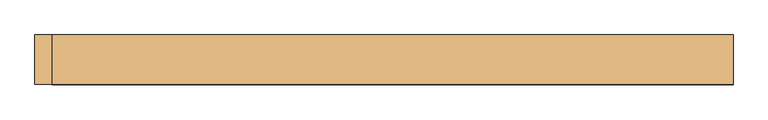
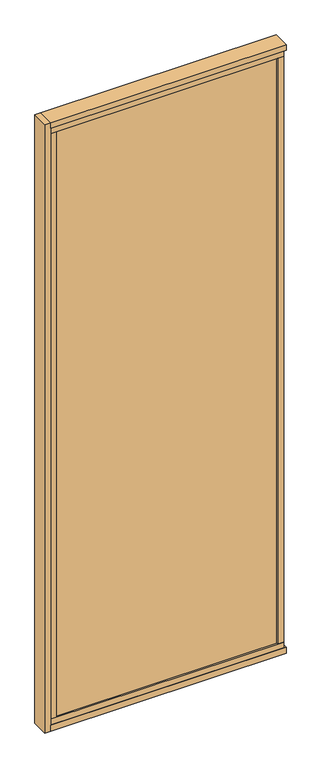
"""IFC4 building model written with IfcOpenShell, lengths in millimetres: door geometry, Mobiliário_Mobiliário de Escritório_Painel de Vidro Duplo com Persiana - AWT E AWL (Inicial e Final)_Marelli : AWT - Temperado."""

from ifc_helpers import new_model, si_unit, frame, origin, origin_with_axes, place, context, project, spatial, polyline, outline, extrude, source, transform, mapped, element, save


def door_6e14e871(model_context):
    return source(origin(), model_context, "Body", "SweptSolid", [
        extrude(outline(polyline([(600.0, 42.5), (600.0, -42.5), (-570.0, -42.5), (-570.0, 42.5), (600.0, 42.5)])), origin_with_axes(), (0.0, 0.0, 1.0), 30.0),
        extrude(outline(polyline([(590.0, 39.5), (590.0, -39.5), (-570.0, -39.5), (-570.0, 39.5), (590.0, 39.5)])), frame((0.0, 0.0, 30.0), z_axis=(0.0, 0.0, 1.0), x_axis=(1.0, 0.0, 0.0)), (0.0, 0.0, 1.0), 30.0),
        extrude(outline(polyline([(560.0, 13.6216022), (560.0, -11.3783978), (-540.0, -11.3783978), (-540.0, 13.6216022), (560.0, 13.6216022)])), frame((0.0, 0.0, 3107.0), z_axis=(0.0, 0.0, 1.0), x_axis=(1.0, 0.0, 0.0)), (0.0, 0.0, 1.0), 25.0),
        extrude(outline(polyline([(600.0, 42.5), (600.0, -42.5), (-570.0, -42.5), (-570.0, 42.5), (600.0, 42.5)])), frame((0.0, 0.0, 3170.0), z_axis=(0.0, 0.0, 1.0), x_axis=(1.0, 0.0, 0.0)), (0.0, 0.0, 1.0), 30.0),
        extrude(outline(polyline([(590.0, 39.5), (590.0, -39.5), (-570.0, -39.5), (-570.0, 39.5), (590.0, 39.5)])), frame((0.0, 0.0, 3140.0), z_axis=(0.0, 0.0, 1.0), x_axis=(1.0, 0.0, 0.0)), (0.0, 0.0, 1.0), 30.0),
        extrude(outline(polyline([(-600.0, -42.5), (-600.0, 42.5), (-570.0, 42.5), (-570.0, -42.5), (-600.0, -42.5)])), origin_with_axes(), (0.0, 0.0, 1.0), 3200.0),
        extrude(outline(polyline([(600.0, -21.5), (590.0, -21.5), (590.0, 21.5), (600.0, 21.5), (600.0, -21.5)])), frame((0.0, 0.0, 30.0), z_axis=(0.0, 0.0, 1.0), x_axis=(1.0, 0.0, 0.0)), (0.0, 0.0, 1.0), 3140.0),
        extrude(outline(polyline([(-540.0, 39.5), (-540.0, -39.5), (-570.0, -39.5), (-570.0, 39.5), (-540.0, 39.5)])), frame((0.0, 0.0, 60.0), z_axis=(0.0, 0.0, 1.0), x_axis=(1.0, 0.0, 0.0)), (0.0, 0.0, 1.0), 3080.0),
        extrude(outline(polyline([(560.0, 39.5), (590.0, 39.5), (590.0, -39.5), (560.0, -39.5), (560.0, 39.5)])), frame((0.0, 0.0, 60.0), z_axis=(0.0, 0.0, 1.0), x_axis=(1.0, 0.0, 0.0)), (0.0, 0.0, 1.0), 3080.0),
        extrude(outline(polyline([(560.0, -25.5), (560.0, -31.5), (-540.0, -31.5), (-540.0, -25.5), (560.0, -25.5)])), frame((0.0, 0.0, 60.0), z_axis=(0.0, 0.0, 1.0), x_axis=(1.0, 0.0, 0.0)), (0.0, 0.0, 1.0), 3080.0),
        extrude(outline(polyline([(560.0, 31.5), (560.0, 25.5), (-540.0, 25.5), (-540.0, 31.5), (560.0, 31.5)])), frame((0.0, 0.0, 60.0), z_axis=(0.0, 0.0, 1.0), x_axis=(1.0, 0.0, 0.0)), (0.0, 0.0, 1.0), 3080.0),
        extrude(outline(polyline([(560.0, 8.0), (560.0, -8.0), (-540.0, -8.0), (-540.0, 8.0), (560.0, 8.0)])), frame((0.0, 0.0, 1051.2), z_axis=(0.0, 0.0, 1.0), x_axis=(1.0, 0.0, 0.0)), (0.0, 0.0, 1.0), 0.8),
        extrude(outline(polyline([(560.0, 8.0), (560.0, -8.0), (-540.0, -8.0), (-540.0, 8.0), (560.0, 8.0)])), frame((0.0, 0.0, 1081.2), z_axis=(0.0, 0.0, 1.0), x_axis=(1.0, 0.0, 0.0)), (0.0, 0.0, 1.0), 0.8),
        extrude(outline(polyline([(560.0, 8.0), (560.0, -8.0), (-540.0, -8.0), (-540.0, 8.0), (560.0, 8.0)])), frame((0.0, 0.0, 1111.2), z_axis=(0.0, 0.0, 1.0), x_axis=(1.0, 0.0, 0.0)), (0.0, 0.0, 1.0), 0.8),
        extrude(outline(polyline([(560.0, 8.0), (560.0, -8.0), (-540.0, -8.0), (-540.0, 8.0), (560.0, 8.0)])), frame((0.0, 0.0, 1141.2), z_axis=(0.0, 0.0, 1.0), x_axis=(1.0, 0.0, 0.0)), (0.0, 0.0, 1.0), 0.8),
        extrude(outline(polyline([(560.0, 8.0), (560.0, -8.0), (-540.0, -8.0), (-540.0, 8.0), (560.0, 8.0)])), frame((0.0, 0.0, 1171.2), z_axis=(0.0, 0.0, 1.0), x_axis=(1.0, 0.0, 0.0)), (0.0, 0.0, 1.0), 0.8),
        extrude(outline(polyline([(560.0, 8.0), (560.0, -8.0), (-540.0, -8.0), (-540.0, 8.0), (560.0, 8.0)])), frame((0.0, 0.0, 1021.2), z_axis=(0.0, 0.0, 1.0), x_axis=(1.0, 0.0, 0.0)), (0.0, 0.0, 1.0), 0.8),
        extrude(outline(polyline([(560.0, 8.0), (560.0, -8.0), (-540.0, -8.0), (-540.0, 8.0), (560.0, 8.0)])), frame((0.0, 0.0, 991.2), z_axis=(0.0, 0.0, 1.0), x_axis=(1.0, 0.0, 0.0)), (0.0, 0.0, 1.0), 0.8),
        extrude(outline(polyline([(560.0, 8.0), (560.0, -8.0), (-540.0, -8.0), (-540.0, 8.0), (560.0, 8.0)])), frame((0.0, 0.0, 961.2), z_axis=(0.0, 0.0, 1.0), x_axis=(1.0, 0.0, 0.0)), (0.0, 0.0, 1.0), 0.8),
        extrude(outline(polyline([(560.0, 8.0), (560.0, -8.0), (-540.0, -8.0), (-540.0, 8.0), (560.0, 8.0)])), frame((0.0, 0.0, 931.2), z_axis=(0.0, 0.0, 1.0), x_axis=(1.0, 0.0, 0.0)), (0.0, 0.0, 1.0), 0.8),
        extrude(outline(polyline([(560.0, 8.0), (560.0, -8.0), (-540.0, -8.0), (-540.0, 8.0), (560.0, 8.0)])), frame((0.0, 0.0, 901.2), z_axis=(0.0, 0.0, 1.0), x_axis=(1.0, 0.0, 0.0)), (0.0, 0.0, 1.0), 0.8),
        extrude(outline(polyline([(560.0, 8.0), (560.0, -8.0), (-540.0, -8.0), (-540.0, 8.0), (560.0, 8.0)])), frame((0.0, 0.0, 661.2), z_axis=(0.0, 0.0, 1.0), x_axis=(1.0, 0.0, 0.0)), (0.0, 0.0, 1.0), 0.8),
        extrude(outline(polyline([(560.0, 8.0), (560.0, -8.0), (-540.0, -8.0), (-540.0, 8.0), (560.0, 8.0)])), frame((0.0, 0.0, 691.2), z_axis=(0.0, 0.0, 1.0), x_axis=(1.0, 0.0, 0.0)), (0.0, 0.0, 1.0), 0.8),
        extrude(outline(polyline([(560.0, 8.0), (560.0, -8.0), (-540.0, -8.0), (-540.0, 8.0), (560.0, 8.0)])), frame((0.0, 0.0, 721.2), z_axis=(0.0, 0.0, 1.0), x_axis=(1.0, 0.0, 0.0)), (0.0, 0.0, 1.0), 0.8),
        extrude(outline(polyline([(560.0, 8.0), (560.0, -8.0), (-540.0, -8.0), (-540.0, 8.0), (560.0, 8.0)])), frame((0.0, 0.0, 751.2), z_axis=(0.0, 0.0, 1.0), x_axis=(1.0, 0.0, 0.0)), (0.0, 0.0, 1.0), 0.8),
        extrude(outline(polyline([(560.0, 8.0), (560.0, -8.0), (-540.0, -8.0), (-540.0, 8.0), (560.0, 8.0)])), frame((0.0, 0.0, 781.2), z_axis=(0.0, 0.0, 1.0), x_axis=(1.0, 0.0, 0.0)), (0.0, 0.0, 1.0), 0.8),
        extrude(outline(polyline([(560.0, 8.0), (560.0, -8.0), (-540.0, -8.0), (-540.0, 8.0), (560.0, 8.0)])), frame((0.0, 0.0, 811.2), z_axis=(0.0, 0.0, 1.0), x_axis=(1.0, 0.0, 0.0)), (0.0, 0.0, 1.0), 0.8),
        extrude(outline(polyline([(560.0, 8.0), (560.0, -8.0), (-540.0, -8.0), (-540.0, 8.0), (560.0, 8.0)])), frame((0.0, 0.0, 841.2), z_axis=(0.0, 0.0, 1.0), x_axis=(1.0, 0.0, 0.0)), (0.0, 0.0, 1.0), 0.8),
        extrude(outline(polyline([(560.0, 8.0), (560.0, -8.0), (-540.0, -8.0), (-540.0, 8.0), (560.0, 8.0)])), frame((0.0, 0.0, 871.2), z_axis=(0.0, 0.0, 1.0), x_axis=(1.0, 0.0, 0.0)), (0.0, 0.0, 1.0), 0.8),
        extrude(outline(polyline([(560.0, 8.0), (560.0, -8.0), (-540.0, -8.0), (-540.0, 8.0), (560.0, 8.0)])), frame((0.0, 0.0, 3091.2), z_axis=(0.0, 0.0, 1.0), x_axis=(1.0, 0.0, 0.0)), (0.0, 0.0, 1.0), 0.8),
        extrude(outline(polyline([(560.0, 8.0), (560.0, -8.0), (-540.0, -8.0), (-540.0, 8.0), (560.0, 8.0)])), frame((0.0, 0.0, 3061.2), z_axis=(0.0, 0.0, 1.0), x_axis=(1.0, 0.0, 0.0)), (0.0, 0.0, 1.0), 0.8),
        extrude(outline(polyline([(560.0, 8.0), (560.0, -8.0), (-540.0, -8.0), (-540.0, 8.0), (560.0, 8.0)])), frame((0.0, 0.0, 3031.2), z_axis=(0.0, 0.0, 1.0), x_axis=(1.0, 0.0, 0.0)), (0.0, 0.0, 1.0), 0.8),
        extrude(outline(polyline([(560.0, 8.0), (560.0, -8.0), (-540.0, -8.0), (-540.0, 8.0), (560.0, 8.0)])), frame((0.0, 0.0, 3001.2), z_axis=(0.0, 0.0, 1.0), x_axis=(1.0, 0.0, 0.0)), (0.0, 0.0, 1.0), 0.8),
        extrude(outline(polyline([(560.0, 8.0), (560.0, -8.0), (-540.0, -8.0), (-540.0, 8.0), (560.0, 8.0)])), frame((0.0, 0.0, 2971.2), z_axis=(0.0, 0.0, 1.0), x_axis=(1.0, 0.0, 0.0)), (0.0, 0.0, 1.0), 0.8),
        extrude(outline(polyline([(560.0, 8.0), (560.0, -8.0), (-540.0, -8.0), (-540.0, 8.0), (560.0, 8.0)])), frame((0.0, 0.0, 2941.2), z_axis=(0.0, 0.0, 1.0), x_axis=(1.0, 0.0, 0.0)), (0.0, 0.0, 1.0), 0.8),
        extrude(outline(polyline([(560.0, 8.0), (560.0, -8.0), (-540.0, -8.0), (-540.0, 8.0), (560.0, 8.0)])), frame((0.0, 0.0, 2911.2), z_axis=(0.0, 0.0, 1.0), x_axis=(1.0, 0.0, 0.0)), (0.0, 0.0, 1.0), 0.8),
        extrude(outline(polyline([(560.0, 8.0), (560.0, -8.0), (-540.0, -8.0), (-540.0, 8.0), (560.0, 8.0)])), frame((0.0, 0.0, 2881.2), z_axis=(0.0, 0.0, 1.0), x_axis=(1.0, 0.0, 0.0)), (0.0, 0.0, 1.0), 0.8),
        extrude(outline(polyline([(560.0, 8.0), (560.0, -8.0), (-540.0, -8.0), (-540.0, 8.0), (560.0, 8.0)])), frame((0.0, 0.0, 2851.2), z_axis=(0.0, 0.0, 1.0), x_axis=(1.0, 0.0, 0.0)), (0.0, 0.0, 1.0), 0.8),
        extrude(outline(polyline([(560.0, 8.0), (560.0, -8.0), (-540.0, -8.0), (-540.0, 8.0), (560.0, 8.0)])), frame((0.0, 0.0, 2821.2), z_axis=(0.0, 0.0, 1.0), x_axis=(1.0, 0.0, 0.0)), (0.0, 0.0, 1.0), 0.8),
        extrude(outline(polyline([(560.0, 8.0), (560.0, -8.0), (-540.0, -8.0), (-540.0, 8.0), (560.0, 8.0)])), frame((0.0, 0.0, 2791.2), z_axis=(0.0, 0.0, 1.0), x_axis=(1.0, 0.0, 0.0)), (0.0, 0.0, 1.0), 0.8),
        extrude(outline(polyline([(560.0, 8.0), (560.0, -8.0), (-540.0, -8.0), (-540.0, 8.0), (560.0, 8.0)])), frame((0.0, 0.0, 2761.2), z_axis=(0.0, 0.0, 1.0), x_axis=(1.0, 0.0, 0.0)), (0.0, 0.0, 1.0), 0.8),
        extrude(outline(polyline([(560.0, 8.0), (560.0, -8.0), (-540.0, -8.0), (-540.0, 8.0), (560.0, 8.0)])), frame((0.0, 0.0, 2731.2), z_axis=(0.0, 0.0, 1.0), x_axis=(1.0, 0.0, 0.0)), (0.0, 0.0, 1.0), 0.8),
        extrude(outline(polyline([(560.0, 8.0), (560.0, -8.0), (-540.0, -8.0), (-540.0, 8.0), (560.0, 8.0)])), frame((0.0, 0.0, 2701.2), z_axis=(0.0, 0.0, 1.0), x_axis=(1.0, 0.0, 0.0)), (0.0, 0.0, 1.0), 0.8),
        extrude(outline(polyline([(560.0, 8.0), (560.0, -8.0), (-540.0, -8.0), (-540.0, 8.0), (560.0, 8.0)])), frame((0.0, 0.0, 2671.2), z_axis=(0.0, 0.0, 1.0), x_axis=(1.0, 0.0, 0.0)), (0.0, 0.0, 1.0), 0.8),
        extrude(outline(polyline([(560.0, 8.0), (560.0, -8.0), (-540.0, -8.0), (-540.0, 8.0), (560.0, 8.0)])), frame((0.0, 0.0, 2641.2), z_axis=(0.0, 0.0, 1.0), x_axis=(1.0, 0.0, 0.0)), (0.0, 0.0, 1.0), 0.8),
        extrude(outline(polyline([(560.0, 8.0), (560.0, -8.0), (-540.0, -8.0), (-540.0, 8.0), (560.0, 8.0)])), frame((0.0, 0.0, 2611.2), z_axis=(0.0, 0.0, 1.0), x_axis=(1.0, 0.0, 0.0)), (0.0, 0.0, 1.0), 0.8),
        extrude(outline(polyline([(560.0, 8.0), (560.0, -8.0), (-540.0, -8.0), (-540.0, 8.0), (560.0, 8.0)])), frame((0.0, 0.0, 2581.2), z_axis=(0.0, 0.0, 1.0), x_axis=(1.0, 0.0, 0.0)), (0.0, 0.0, 1.0), 0.8),
        extrude(outline(polyline([(560.0, 8.0), (560.0, -8.0), (-540.0, -8.0), (-540.0, 8.0), (560.0, 8.0)])), frame((0.0, 0.0, 2551.2), z_axis=(0.0, 0.0, 1.0), x_axis=(1.0, 0.0, 0.0)), (0.0, 0.0, 1.0), 0.8),
        extrude(outline(polyline([(560.0, 8.0), (560.0, -8.0), (-540.0, -8.0), (-540.0, 8.0), (560.0, 8.0)])), frame((0.0, 0.0, 2521.2), z_axis=(0.0, 0.0, 1.0), x_axis=(1.0, 0.0, 0.0)), (0.0, 0.0, 1.0), 0.8),
        extrude(outline(polyline([(560.0, 8.0), (560.0, -8.0), (-540.0, -8.0), (-540.0, 8.0), (560.0, 8.0)])), frame((0.0, 0.0, 2491.2), z_axis=(0.0, 0.0, 1.0), x_axis=(1.0, 0.0, 0.0)), (0.0, 0.0, 1.0), 0.8),
        extrude(outline(polyline([(560.0, 8.0), (560.0, -8.0), (-540.0, -8.0), (-540.0, 8.0), (560.0, 8.0)])), frame((0.0, 0.0, 2461.2), z_axis=(0.0, 0.0, 1.0), x_axis=(1.0, 0.0, 0.0)), (0.0, 0.0, 1.0), 0.8),
        extrude(outline(polyline([(560.0, 8.0), (560.0, -8.0), (-540.0, -8.0), (-540.0, 8.0), (560.0, 8.0)])), frame((0.0, 0.0, 2431.2), z_axis=(0.0, 0.0, 1.0), x_axis=(1.0, 0.0, 0.0)), (0.0, 0.0, 1.0), 0.8),
        extrude(outline(polyline([(560.0, 8.0), (560.0, -8.0), (-540.0, -8.0), (-540.0, 8.0), (560.0, 8.0)])), frame((0.0, 0.0, 2401.2), z_axis=(0.0, 0.0, 1.0), x_axis=(1.0, 0.0, 0.0)), (0.0, 0.0, 1.0), 0.8),
        extrude(outline(polyline([(560.0, 8.0), (560.0, -8.0), (-540.0, -8.0), (-540.0, 8.0), (560.0, 8.0)])), frame((0.0, 0.0, 2371.2), z_axis=(0.0, 0.0, 1.0), x_axis=(1.0, 0.0, 0.0)), (0.0, 0.0, 1.0), 0.8),
        extrude(outline(polyline([(560.0, 8.0), (560.0, -8.0), (-540.0, -8.0), (-540.0, 8.0), (560.0, 8.0)])), frame((0.0, 0.0, 2341.2), z_axis=(0.0, 0.0, 1.0), x_axis=(1.0, 0.0, 0.0)), (0.0, 0.0, 1.0), 0.8),
        extrude(outline(polyline([(560.0, 8.0), (560.0, -8.0), (-540.0, -8.0), (-540.0, 8.0), (560.0, 8.0)])), frame((0.0, 0.0, 2311.2), z_axis=(0.0, 0.0, 1.0), x_axis=(1.0, 0.0, 0.0)), (0.0, 0.0, 1.0), 0.8),
        extrude(outline(polyline([(560.0, 8.0), (560.0, -8.0), (-540.0, -8.0), (-540.0, 8.0), (560.0, 8.0)])), frame((0.0, 0.0, 2281.2), z_axis=(0.0, 0.0, 1.0), x_axis=(1.0, 0.0, 0.0)), (0.0, 0.0, 1.0), 0.8),
        extrude(outline(polyline([(560.0, 8.0), (560.0, -8.0), (-540.0, -8.0), (-540.0, 8.0), (560.0, 8.0)])), frame((0.0, 0.0, 2251.2), z_axis=(0.0, 0.0, 1.0), x_axis=(1.0, 0.0, 0.0)), (0.0, 0.0, 1.0), 0.8),
        extrude(outline(polyline([(560.0, 8.0), (560.0, -8.0), (-540.0, -8.0), (-540.0, 8.0), (560.0, 8.0)])), frame((0.0, 0.0, 2221.2), z_axis=(0.0, 0.0, 1.0), x_axis=(1.0, 0.0, 0.0)), (0.0, 0.0, 1.0), 0.8),
        extrude(outline(polyline([(560.0, 8.0), (560.0, -8.0), (-540.0, -8.0), (-540.0, 8.0), (560.0, 8.0)])), frame((0.0, 0.0, 2191.2), z_axis=(0.0, 0.0, 1.0), x_axis=(1.0, 0.0, 0.0)), (0.0, 0.0, 1.0), 0.8),
        extrude(outline(polyline([(560.0, 8.0), (560.0, -8.0), (-540.0, -8.0), (-540.0, 8.0), (560.0, 8.0)])), frame((0.0, 0.0, 2161.2), z_axis=(0.0, 0.0, 1.0), x_axis=(1.0, 0.0, 0.0)), (0.0, 0.0, 1.0), 0.8),
        extrude(outline(polyline([(560.0, 8.0), (560.0, -8.0), (-540.0, -8.0), (-540.0, 8.0), (560.0, 8.0)])), frame((0.0, 0.0, 2131.2), z_axis=(0.0, 0.0, 1.0), x_axis=(1.0, 0.0, 0.0)), (0.0, 0.0, 1.0), 0.8),
        extrude(outline(polyline([(560.0, 8.0), (560.0, -8.0), (-540.0, -8.0), (-540.0, 8.0), (560.0, 8.0)])), frame((0.0, 0.0, 2101.2), z_axis=(0.0, 0.0, 1.0), x_axis=(1.0, 0.0, 0.0)), (0.0, 0.0, 1.0), 0.8),
        extrude(outline(polyline([(560.0, 8.0), (560.0, -8.0), (-540.0, -8.0), (-540.0, 8.0), (560.0, 8.0)])), frame((0.0, 0.0, 2071.2), z_axis=(0.0, 0.0, 1.0), x_axis=(1.0, 0.0, 0.0)), (0.0, 0.0, 1.0), 0.8),
        extrude(outline(polyline([(560.0, 8.0), (560.0, -8.0), (-540.0, -8.0), (-540.0, 8.0), (560.0, 8.0)])), frame((0.0, 0.0, 2041.2), z_axis=(0.0, 0.0, 1.0), x_axis=(1.0, 0.0, 0.0)), (0.0, 0.0, 1.0), 0.8),
        extrude(outline(polyline([(560.0, 8.0), (560.0, -8.0), (-540.0, -8.0), (-540.0, 8.0), (560.0, 8.0)])), frame((0.0, 0.0, 2011.2), z_axis=(0.0, 0.0, 1.0), x_axis=(1.0, 0.0, 0.0)), (0.0, 0.0, 1.0), 0.8),
        extrude(outline(polyline([(560.0, 8.0), (560.0, -8.0), (-540.0, -8.0), (-540.0, 8.0), (560.0, 8.0)])), frame((0.0, 0.0, 1981.2), z_axis=(0.0, 0.0, 1.0), x_axis=(1.0, 0.0, 0.0)), (0.0, 0.0, 1.0), 0.8),
        extrude(outline(polyline([(560.0, 8.0), (560.0, -8.0), (-540.0, -8.0), (-540.0, 8.0), (560.0, 8.0)])), frame((0.0, 0.0, 1951.2), z_axis=(0.0, 0.0, 1.0), x_axis=(1.0, 0.0, 0.0)), (0.0, 0.0, 1.0), 0.8),
        extrude(outline(polyline([(560.0, 8.0), (560.0, -8.0), (-540.0, -8.0), (-540.0, 8.0), (560.0, 8.0)])), frame((0.0, 0.0, 1921.2), z_axis=(0.0, 0.0, 1.0), x_axis=(1.0, 0.0, 0.0)), (0.0, 0.0, 1.0), 0.8),
        extrude(outline(polyline([(560.0, 8.0), (560.0, -8.0), (-540.0, -8.0), (-540.0, 8.0), (560.0, 8.0)])), frame((0.0, 0.0, 1891.2), z_axis=(0.0, 0.0, 1.0), x_axis=(1.0, 0.0, 0.0)), (0.0, 0.0, 1.0), 0.8),
        extrude(outline(polyline([(560.0, 8.0), (560.0, -8.0), (-540.0, -8.0), (-540.0, 8.0), (560.0, 8.0)])), frame((0.0, 0.0, 1861.2), z_axis=(0.0, 0.0, 1.0), x_axis=(1.0, 0.0, 0.0)), (0.0, 0.0, 1.0), 0.8),
        extrude(outline(polyline([(560.0, 8.0), (560.0, -8.0), (-540.0, -8.0), (-540.0, 8.0), (560.0, 8.0)])), frame((0.0, 0.0, 1831.2), z_axis=(0.0, 0.0, 1.0), x_axis=(1.0, 0.0, 0.0)), (0.0, 0.0, 1.0), 0.8),
        extrude(outline(polyline([(560.0, 8.0), (560.0, -8.0), (-540.0, -8.0), (-540.0, 8.0), (560.0, 8.0)])), frame((0.0, 0.0, 1801.2), z_axis=(0.0, 0.0, 1.0), x_axis=(1.0, 0.0, 0.0)), (0.0, 0.0, 1.0), 0.8),
        extrude(outline(polyline([(560.0, 8.0), (560.0, -8.0), (-540.0, -8.0), (-540.0, 8.0), (560.0, 8.0)])), frame((0.0, 0.0, 1501.2), z_axis=(0.0, 0.0, 1.0), x_axis=(1.0, 0.0, 0.0)), (0.0, 0.0, 1.0), 0.8),
        extrude(outline(polyline([(560.0, 8.0), (560.0, -8.0), (-540.0, -8.0), (-540.0, 8.0), (560.0, 8.0)])), frame((0.0, 0.0, 1531.2), z_axis=(0.0, 0.0, 1.0), x_axis=(1.0, 0.0, 0.0)), (0.0, 0.0, 1.0), 0.8),
        extrude(outline(polyline([(560.0, 8.0), (560.0, -8.0), (-540.0, -8.0), (-540.0, 8.0), (560.0, 8.0)])), frame((0.0, 0.0, 1561.2), z_axis=(0.0, 0.0, 1.0), x_axis=(1.0, 0.0, 0.0)), (0.0, 0.0, 1.0), 0.8),
        extrude(outline(polyline([(560.0, 8.0), (560.0, -8.0), (-540.0, -8.0), (-540.0, 8.0), (560.0, 8.0)])), frame((0.0, 0.0, 1591.2), z_axis=(0.0, 0.0, 1.0), x_axis=(1.0, 0.0, 0.0)), (0.0, 0.0, 1.0), 0.8),
        extrude(outline(polyline([(560.0, 8.0), (560.0, -8.0), (-540.0, -8.0), (-540.0, 8.0), (560.0, 8.0)])), frame((0.0, 0.0, 1621.2), z_axis=(0.0, 0.0, 1.0), x_axis=(1.0, 0.0, 0.0)), (0.0, 0.0, 1.0), 0.8),
        extrude(outline(polyline([(560.0, 8.0), (560.0, -8.0), (-540.0, -8.0), (-540.0, 8.0), (560.0, 8.0)])), frame((0.0, 0.0, 1651.2), z_axis=(0.0, 0.0, 1.0), x_axis=(1.0, 0.0, 0.0)), (0.0, 0.0, 1.0), 0.8),
        extrude(outline(polyline([(560.0, 8.0), (560.0, -8.0), (-540.0, -8.0), (-540.0, 8.0), (560.0, 8.0)])), frame((0.0, 0.0, 1681.2), z_axis=(0.0, 0.0, 1.0), x_axis=(1.0, 0.0, 0.0)), (0.0, 0.0, 1.0), 0.8),
        extrude(outline(polyline([(560.0, 8.0), (560.0, -8.0), (-540.0, -8.0), (-540.0, 8.0), (560.0, 8.0)])), frame((0.0, 0.0, 1711.2), z_axis=(0.0, 0.0, 1.0), x_axis=(1.0, 0.0, 0.0)), (0.0, 0.0, 1.0), 0.8),
        extrude(outline(polyline([(560.0, 8.0), (560.0, -8.0), (-540.0, -8.0), (-540.0, 8.0), (560.0, 8.0)])), frame((0.0, 0.0, 1741.2), z_axis=(0.0, 0.0, 1.0), x_axis=(1.0, 0.0, 0.0)), (0.0, 0.0, 1.0), 0.8),
        extrude(outline(polyline([(560.0, 8.0), (560.0, -8.0), (-540.0, -8.0), (-540.0, 8.0), (560.0, 8.0)])), frame((0.0, 0.0, 1771.2), z_axis=(0.0, 0.0, 1.0), x_axis=(1.0, 0.0, 0.0)), (0.0, 0.0, 1.0), 0.8),
        extrude(outline(polyline([(560.0, 8.0), (560.0, -8.0), (-540.0, -8.0), (-540.0, 8.0), (560.0, 8.0)])), frame((0.0, 0.0, 1201.2), z_axis=(0.0, 0.0, 1.0), x_axis=(1.0, 0.0, 0.0)), (0.0, 0.0, 1.0), 0.8),
        extrude(outline(polyline([(560.0, 8.0), (560.0, -8.0), (-540.0, -8.0), (-540.0, 8.0), (560.0, 8.0)])), frame((0.0, 0.0, 1471.2), z_axis=(0.0, 0.0, 1.0), x_axis=(1.0, 0.0, 0.0)), (0.0, 0.0, 1.0), 0.8),
        extrude(outline(polyline([(560.0, 8.0), (560.0, -8.0), (-540.0, -8.0), (-540.0, 8.0), (560.0, 8.0)])), frame((0.0, 0.0, 1441.2), z_axis=(0.0, 0.0, 1.0), x_axis=(1.0, 0.0, 0.0)), (0.0, 0.0, 1.0), 0.8),
        extrude(outline(polyline([(560.0, 8.0), (560.0, -8.0), (-540.0, -8.0), (-540.0, 8.0), (560.0, 8.0)])), frame((0.0, 0.0, 1411.2), z_axis=(0.0, 0.0, 1.0), x_axis=(1.0, 0.0, 0.0)), (0.0, 0.0, 1.0), 0.8),
        extrude(outline(polyline([(560.0, 8.0), (560.0, -8.0), (-540.0, -8.0), (-540.0, 8.0), (560.0, 8.0)])), frame((0.0, 0.0, 1381.2), z_axis=(0.0, 0.0, 1.0), x_axis=(1.0, 0.0, 0.0)), (0.0, 0.0, 1.0), 0.8),
        extrude(outline(polyline([(560.0, 8.0), (560.0, -8.0), (-540.0, -8.0), (-540.0, 8.0), (560.0, 8.0)])), frame((0.0, 0.0, 1351.2), z_axis=(0.0, 0.0, 1.0), x_axis=(1.0, 0.0, 0.0)), (0.0, 0.0, 1.0), 0.8),
        extrude(outline(polyline([(560.0, 8.0), (560.0, -8.0), (-540.0, -8.0), (-540.0, 8.0), (560.0, 8.0)])), frame((0.0, 0.0, 1321.2), z_axis=(0.0, 0.0, 1.0), x_axis=(1.0, 0.0, 0.0)), (0.0, 0.0, 1.0), 0.8),
        extrude(outline(polyline([(560.0, 8.0), (560.0, -8.0), (-540.0, -8.0), (-540.0, 8.0), (560.0, 8.0)])), frame((0.0, 0.0, 1291.2), z_axis=(0.0, 0.0, 1.0), x_axis=(1.0, 0.0, 0.0)), (0.0, 0.0, 1.0), 0.8),
        extrude(outline(polyline([(560.0, 8.0), (560.0, -8.0), (-540.0, -8.0), (-540.0, 8.0), (560.0, 8.0)])), frame((0.0, 0.0, 1261.2), z_axis=(0.0, 0.0, 1.0), x_axis=(1.0, 0.0, 0.0)), (0.0, 0.0, 1.0), 0.8),
        extrude(outline(polyline([(560.0, 8.0), (560.0, -8.0), (-540.0, -8.0), (-540.0, 8.0), (560.0, 8.0)])), frame((0.0, 0.0, 1231.2), z_axis=(0.0, 0.0, 1.0), x_axis=(1.0, 0.0, 0.0)), (0.0, 0.0, 1.0), 0.8),
    ])


if __name__ == "__main__":
    model = new_model("IFC4")
    model_context = context("Model", 3, world=origin())
    ifc_project = project(units=[si_unit("LENGTHUNIT", "METRE", prefix="MILLI")], contexts=[model_context])
    site = spatial("IfcSite", under=ifc_project)
    building = spatial("IfcBuilding", under=site)
    placement = place(None, origin())
    door_shape = door_6e14e871(model_context)
    element("IfcDoor", 1, ObjectType="Mobiliário_Mobiliário de Escritório_Painel de Vidro Duplo com Persiana - AWT E AWL (Inicial e Final)_Marelli : AWT - Temperado", at=placement, inside=building, context=model_context, shape_type="MappedRepresentation", body=[
        mapped(door_shape, transform((0.0, 0.0, 0.0), x_axis=(1.0, 0.0, 0.0), y_axis=(0.0, 1.0, 0.0), z_axis=(0.0, 0.0, 1.0))),
    ])
    save(model, "model.ifc")
